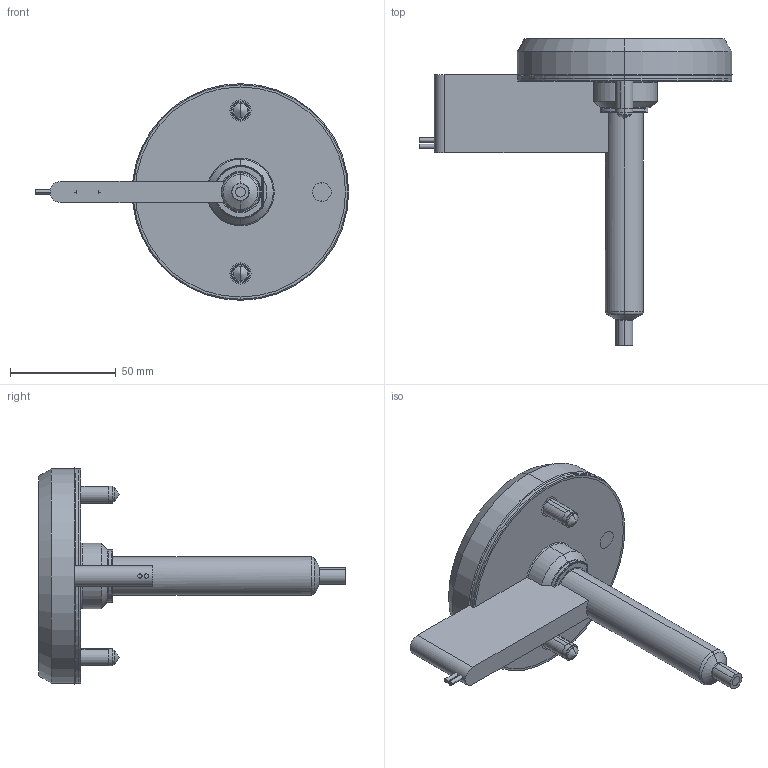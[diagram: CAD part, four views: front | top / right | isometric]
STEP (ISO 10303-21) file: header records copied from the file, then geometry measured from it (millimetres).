
FILE_DESCRIPTION (( 'STEP AP214' ), '1' );
FILE_NAME ('SOHSB4100-SOSRT402.STEP', '2024-11-29T06:22:31', ( '' ), ( '' ), 'SwSTEP 2.0', 'SolidWorks 2022', '' );
FILE_SCHEMA (( 'AUTOMOTIVE_DESIGN' ));
Length unit declared in the file: millimetre
Products named in the file (9): EcoONE-HSB04-04005(A)_SOTC10200-J; EcoONE-HSB04-04003(A)_SOHSBNB4100; EcoONE-HSB04-00002(A)_SOHSBLR04; SOHSB4100-SOSRT402; socket head cap screw_iso_ISO 4762 M8 x 25 - 25N; EcoONE-HSB04-04006(A)_SONHC04; EcoONE-HSB04-04 Open Gate Cut-out Details_Ext Sprue Gate or Full Body Gate; EcoONE-HSB04-Open Gate Extended Sprue Tip_SOSRT0402; EcoONE-HSB04-04004(A)_SONH10097
Assembly tree (11 placements, depth 2):
  SOHSB4100-SOSRT402
    EcoONE-HSB04-04003(A)_SOHSBNB4100
    EcoONE-HSB04-04004(A)_SONH10097
    EcoONE-HSB04-04005(A)_SOTC10200-J
    EcoONE-HSB04-04006(A)_SONHC04  x2
    EcoONE-HSB04-00002(A)_SOHSBLR04
    socket head cap screw_iso_ISO 4762 M8 x 25 - 25N  x3
    EcoONE-HSB04-04 Open Gate Cut-out Details_Ext Sprue Gate or Full Body Gate
    EcoONE-HSB04-Open Gate Extended Sprue Tip_SOSRT0402
Bounding box: 148.2 x 145 x 102.4 mm (x, y, z)
Volume: 242110 mm3; surface area: 77104.7 mm2
Topology: 11 solids, 11 shells, 524 faces, 1302 edges, 811 vertices
Faces by surface type: cylinder 158, plane 152, bspline 87, cone 85, torus 34, sphere 8
Entity records: 24526 total; most frequent: CARTESIAN_POINT 13441, ORIENTED_EDGE 2264, DIRECTION 1976, EDGE_CURVE 1132, AXIS2_PLACEMENT_3D 798, VERTEX_POINT 715, EDGE_LOOP 493, ADVANCED_FACE 454
